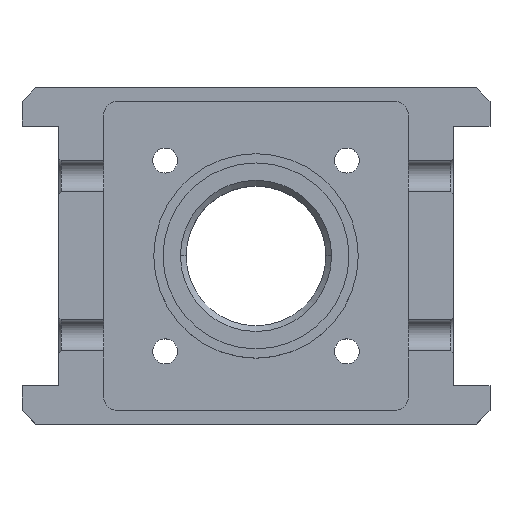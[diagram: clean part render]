
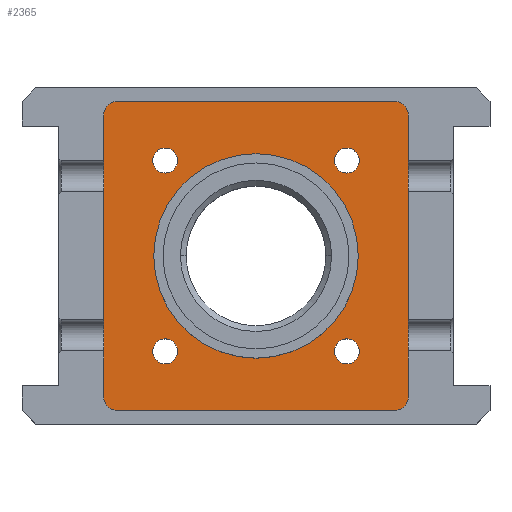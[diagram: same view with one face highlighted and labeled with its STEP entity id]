
A CAD part, top view. The second image highlights one B-rep face of the part: STEP entity #2365.
In plain terms, the highlighted planar face has unit normal (0, 0, 1).
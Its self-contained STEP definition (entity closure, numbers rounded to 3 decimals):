
#696=CARTESIAN_POINT('',(30.5,31.,4.));
#697=DIRECTION('',(0.,0.,-1.));
#698=DIRECTION('',(0.,1.,0.));
#699=AXIS2_PLACEMENT_3D('',#696,#697,#698);
#701=DIRECTION('',(0.,-1.,0.));
#702=VECTOR('',#701,62.);
#703=CARTESIAN_POINT('',(33.5,31.,4.));
#704=LINE('',#703,#702);
#705=CARTESIAN_POINT('',(30.5,-31.,4.));
#706=DIRECTION('',(0.,0.,-1.));
#707=DIRECTION('',(1.,0.,0.));
#708=AXIS2_PLACEMENT_3D('',#705,#706,#707);
#710=DIRECTION('',(-1.,0.,0.));
#711=VECTOR('',#710,61.);
#712=CARTESIAN_POINT('',(30.5,-34.,4.));
#713=LINE('',#712,#711);
#714=CARTESIAN_POINT('',(-30.5,-31.,4.));
#715=DIRECTION('',(0.,0.,-1.));
#716=DIRECTION('',(0.,-1.,0.));
#717=AXIS2_PLACEMENT_3D('',#714,#715,#716);
#719=DIRECTION('',(0.,1.,0.));
#720=VECTOR('',#719,62.);
#721=CARTESIAN_POINT('',(-33.5,-31.,4.));
#722=LINE('',#721,#720);
#723=CARTESIAN_POINT('',(-30.5,31.,4.));
#724=DIRECTION('',(0.,0.,-1.));
#725=DIRECTION('',(-1.,0.,0.));
#726=AXIS2_PLACEMENT_3D('',#723,#724,#725);
#728=CARTESIAN_POINT('',(0.,0.,4.));
#729=DIRECTION('',(0.,0.,1.));
#730=DIRECTION('',(0.,-1.,0.));
#731=AXIS2_PLACEMENT_3D('',#728,#729,#730);
#733=CARTESIAN_POINT('',(0.,0.,4.));
#734=DIRECTION('',(0.,0.,1.));
#735=DIRECTION('',(0.,1.,0.));
#736=AXIS2_PLACEMENT_3D('',#733,#734,#735);
#738=CARTESIAN_POINT('',(-20.,-21.,4.));
#739=DIRECTION('',(0.,0.,-1.));
#740=DIRECTION('',(1.,0.,0.));
#741=AXIS2_PLACEMENT_3D('',#738,#739,#740);
#743=CARTESIAN_POINT('',(-20.,-21.,4.));
#744=DIRECTION('',(0.,0.,-1.));
#745=DIRECTION('',(-1.,0.,0.));
#746=AXIS2_PLACEMENT_3D('',#743,#744,#745);
#748=CARTESIAN_POINT('',(-20.,21.,4.));
#749=DIRECTION('',(0.,0.,-1.));
#750=DIRECTION('',(1.,0.,0.));
#751=AXIS2_PLACEMENT_3D('',#748,#749,#750);
#753=CARTESIAN_POINT('',(-20.,21.,4.));
#754=DIRECTION('',(0.,0.,-1.));
#755=DIRECTION('',(-1.,0.,0.));
#756=AXIS2_PLACEMENT_3D('',#753,#754,#755);
#758=CARTESIAN_POINT('',(20.,21.,4.));
#759=DIRECTION('',(0.,0.,-1.));
#760=DIRECTION('',(1.,0.,0.));
#761=AXIS2_PLACEMENT_3D('',#758,#759,#760);
#763=CARTESIAN_POINT('',(20.,21.,4.));
#764=DIRECTION('',(0.,0.,-1.));
#765=DIRECTION('',(-1.,0.,0.));
#766=AXIS2_PLACEMENT_3D('',#763,#764,#765);
#768=CARTESIAN_POINT('',(20.,-21.,4.));
#769=DIRECTION('',(0.,0.,-1.));
#770=DIRECTION('',(1.,0.,0.));
#771=AXIS2_PLACEMENT_3D('',#768,#769,#770);
#773=CARTESIAN_POINT('',(20.,-21.,4.));
#774=DIRECTION('',(0.,0.,-1.));
#775=DIRECTION('',(-1.,0.,0.));
#776=AXIS2_PLACEMENT_3D('',#773,#774,#775);
#782=DIRECTION('',(-1.,0.,0.));
#783=VECTOR('',#782,61.);
#784=CARTESIAN_POINT('',(30.5,34.,4.));
#785=LINE('',#784,#783);
#1225=CARTESIAN_POINT('',(-22.75,-21.,4.));
#1227=VERTEX_POINT('',#1225);
#1229=CARTESIAN_POINT('',(-17.25,-21.,4.));
#1231=VERTEX_POINT('',#1229);
#1233=CARTESIAN_POINT('',(-22.75,21.,4.));
#1235=VERTEX_POINT('',#1233);
#1237=CARTESIAN_POINT('',(-17.25,21.,4.));
#1239=VERTEX_POINT('',#1237);
#1241=CARTESIAN_POINT('',(17.25,21.,4.));
#1243=VERTEX_POINT('',#1241);
#1245=CARTESIAN_POINT('',(22.75,21.,4.));
#1247=VERTEX_POINT('',#1245);
#1249=CARTESIAN_POINT('',(17.25,-21.,4.));
#1251=VERTEX_POINT('',#1249);
#1253=CARTESIAN_POINT('',(22.75,-21.,4.));
#1255=VERTEX_POINT('',#1253);
#1329=CARTESIAN_POINT('',(0.,-22.5,4.));
#1330=CARTESIAN_POINT('',(0.,22.5,4.));
#1331=VERTEX_POINT('',#1329);
#1332=VERTEX_POINT('',#1330);
#1341=CARTESIAN_POINT('',(30.5,34.,4.));
#1342=CARTESIAN_POINT('',(-30.5,34.,4.));
#1343=VERTEX_POINT('',#1341);
#1344=VERTEX_POINT('',#1342);
#1345=CARTESIAN_POINT('',(33.5,31.,4.));
#1346=VERTEX_POINT('',#1345);
#1347=CARTESIAN_POINT('',(33.5,-31.,4.));
#1348=VERTEX_POINT('',#1347);
#1349=CARTESIAN_POINT('',(30.5,-34.,4.));
#1350=VERTEX_POINT('',#1349);
#1351=CARTESIAN_POINT('',(-30.5,-34.,4.));
#1352=VERTEX_POINT('',#1351);
#1353=CARTESIAN_POINT('',(-33.5,-31.,4.));
#1354=VERTEX_POINT('',#1353);
#1355=CARTESIAN_POINT('',(-33.5,31.,4.));
#1356=VERTEX_POINT('',#1355);
#2314=CARTESIAN_POINT('',(0.,0.,4.));
#2315=DIRECTION('',(0.,0.,1.));
#2316=DIRECTION('',(1.,0.,0.));
#2317=AXIS2_PLACEMENT_3D('',#2314,#2315,#2316);
#2318=PLANE('',#2317);
#2320=ORIENTED_EDGE('',*,*,#2319,.F.);
#2322=ORIENTED_EDGE('',*,*,#2321,.T.);
#2324=ORIENTED_EDGE('',*,*,#2323,.T.);
#2326=ORIENTED_EDGE('',*,*,#2325,.T.);
#2328=ORIENTED_EDGE('',*,*,#2327,.T.);
#2330=ORIENTED_EDGE('',*,*,#2329,.T.);
#2332=ORIENTED_EDGE('',*,*,#2331,.T.);
#2334=ORIENTED_EDGE('',*,*,#2333,.T.);
#2335=EDGE_LOOP('',(#2320,#2322,#2324,#2326,#2328,#2330,#2332,#2334));
#2336=FACE_OUTER_BOUND('',#2335,.F.);
#2337=ORIENTED_EDGE('',*,*,#2307,.T.);
#2338=ORIENTED_EDGE('',*,*,#2293,.T.);
#2339=EDGE_LOOP('',(#2337,#2338));
#2340=FACE_BOUND('',#2339,.F.);
#2342=ORIENTED_EDGE('',*,*,#2341,.F.);
#2344=ORIENTED_EDGE('',*,*,#2343,.F.);
#2345=EDGE_LOOP('',(#2342,#2344));
#2346=FACE_BOUND('',#2345,.F.);
#2348=ORIENTED_EDGE('',*,*,#2347,.F.);
#2350=ORIENTED_EDGE('',*,*,#2349,.F.);
#2351=EDGE_LOOP('',(#2348,#2350));
#2352=FACE_BOUND('',#2351,.F.);
#2354=ORIENTED_EDGE('',*,*,#2353,.F.);
#2356=ORIENTED_EDGE('',*,*,#2355,.F.);
#2357=EDGE_LOOP('',(#2354,#2356));
#2358=FACE_BOUND('',#2357,.F.);
#2360=ORIENTED_EDGE('',*,*,#2359,.F.);
#2362=ORIENTED_EDGE('',*,*,#2361,.F.);
#2363=EDGE_LOOP('',(#2360,#2362));
#2364=FACE_BOUND('',#2363,.F.);
#2365=ADVANCED_FACE('',(#2336,#2340,#2346,#2352,#2358,#2364),#2318,.T.);
#700=CIRCLE('',#699,3.);
#709=CIRCLE('',#708,3.);
#718=CIRCLE('',#717,3.);
#727=CIRCLE('',#726,3.);
#732=CIRCLE('',#731,22.5);
#737=CIRCLE('',#736,22.5);
#742=CIRCLE('',#741,2.75);
#747=CIRCLE('',#746,2.75);
#752=CIRCLE('',#751,2.75);
#757=CIRCLE('',#756,2.75);
#762=CIRCLE('',#761,2.75);
#767=CIRCLE('',#766,2.75);
#772=CIRCLE('',#771,2.75);
#777=CIRCLE('',#776,2.75);
#2293=EDGE_CURVE('',#1332,#1331,#737,.T.);
#2307=EDGE_CURVE('',#1331,#1332,#732,.T.);
#2319=EDGE_CURVE('',#1343,#1344,#785,.T.);
#2321=EDGE_CURVE('',#1343,#1346,#700,.T.);
#2323=EDGE_CURVE('',#1346,#1348,#704,.T.);
#2325=EDGE_CURVE('',#1348,#1350,#709,.T.);
#2327=EDGE_CURVE('',#1350,#1352,#713,.T.);
#2329=EDGE_CURVE('',#1352,#1354,#718,.T.);
#2331=EDGE_CURVE('',#1354,#1356,#722,.T.);
#2333=EDGE_CURVE('',#1356,#1344,#727,.T.);
#2341=EDGE_CURVE('',#1231,#1227,#742,.T.);
#2343=EDGE_CURVE('',#1227,#1231,#747,.T.);
#2347=EDGE_CURVE('',#1239,#1235,#752,.T.);
#2349=EDGE_CURVE('',#1235,#1239,#757,.T.);
#2353=EDGE_CURVE('',#1247,#1243,#762,.T.);
#2355=EDGE_CURVE('',#1243,#1247,#767,.T.);
#2359=EDGE_CURVE('',#1255,#1251,#772,.T.);
#2361=EDGE_CURVE('',#1251,#1255,#777,.T.);
